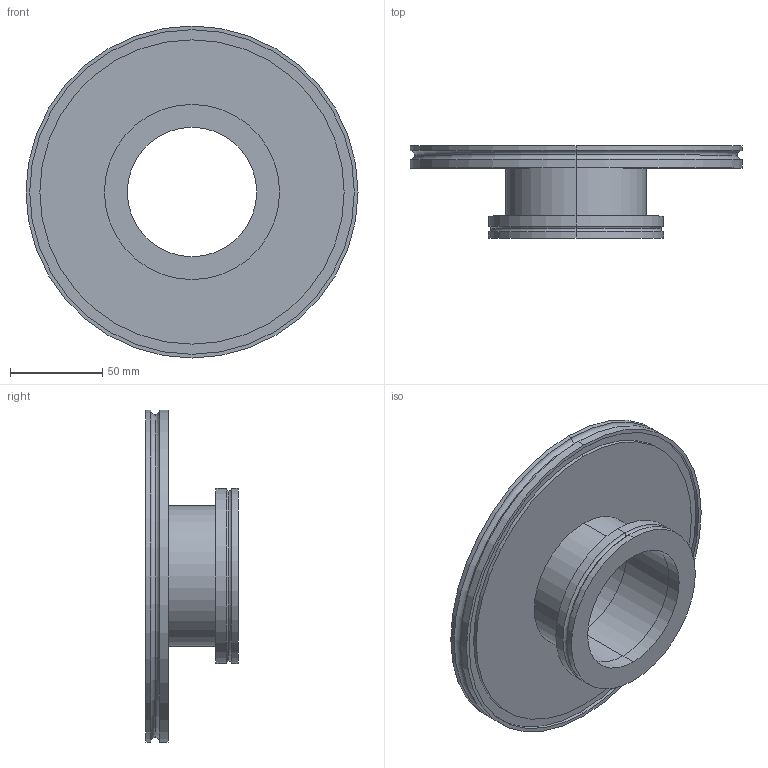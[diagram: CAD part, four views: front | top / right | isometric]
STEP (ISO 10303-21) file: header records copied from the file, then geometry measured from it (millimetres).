
FILE_DESCRIPTION (( 'STEP AP214' ), '1' );
FILE_NAME ('W4RS63-160.STEP', '2020-10-06T08:08:09', ( '' ), ( '' ), 'SwSTEP 2.0', 'SolidWorks 2020', '' );
FILE_SCHEMA (( 'AUTOMOTIVE_DESIGN' ));
Length unit declared in the file: millimetre
Products named in the file (1): W4RS63-160
Bounding box: 180 x 50 x 180 mm (x, y, z)
Volume: 288807.7 mm3; surface area: 89914.1 mm2
Topology: 3 solids, 3 shells, 51 faces, 102 edges, 64 vertices
Faces by surface type: cylinder 30, plane 13, torus 8
Entity records: 1416 total; most frequent: DIRECTION 278, CARTESIAN_POINT 218, ORIENTED_EDGE 204, AXIS2_PLACEMENT_3D 124, EDGE_CURVE 102, CIRCLE 72, VERTEX_POINT 64, EDGE_LOOP 64
